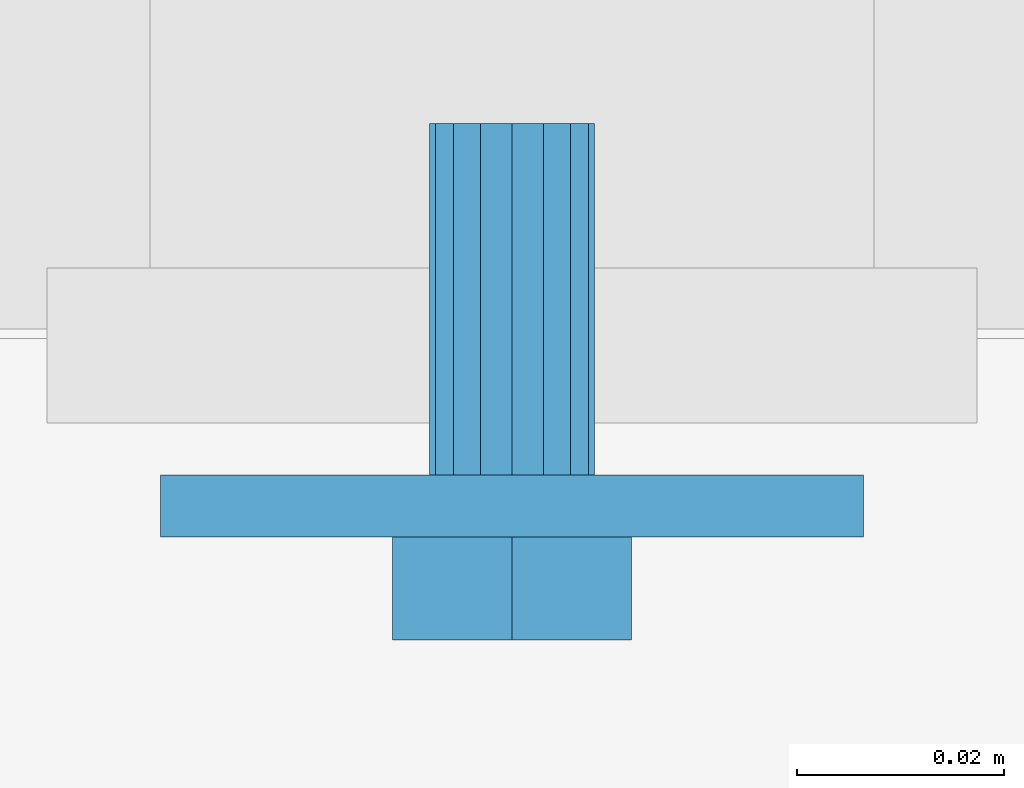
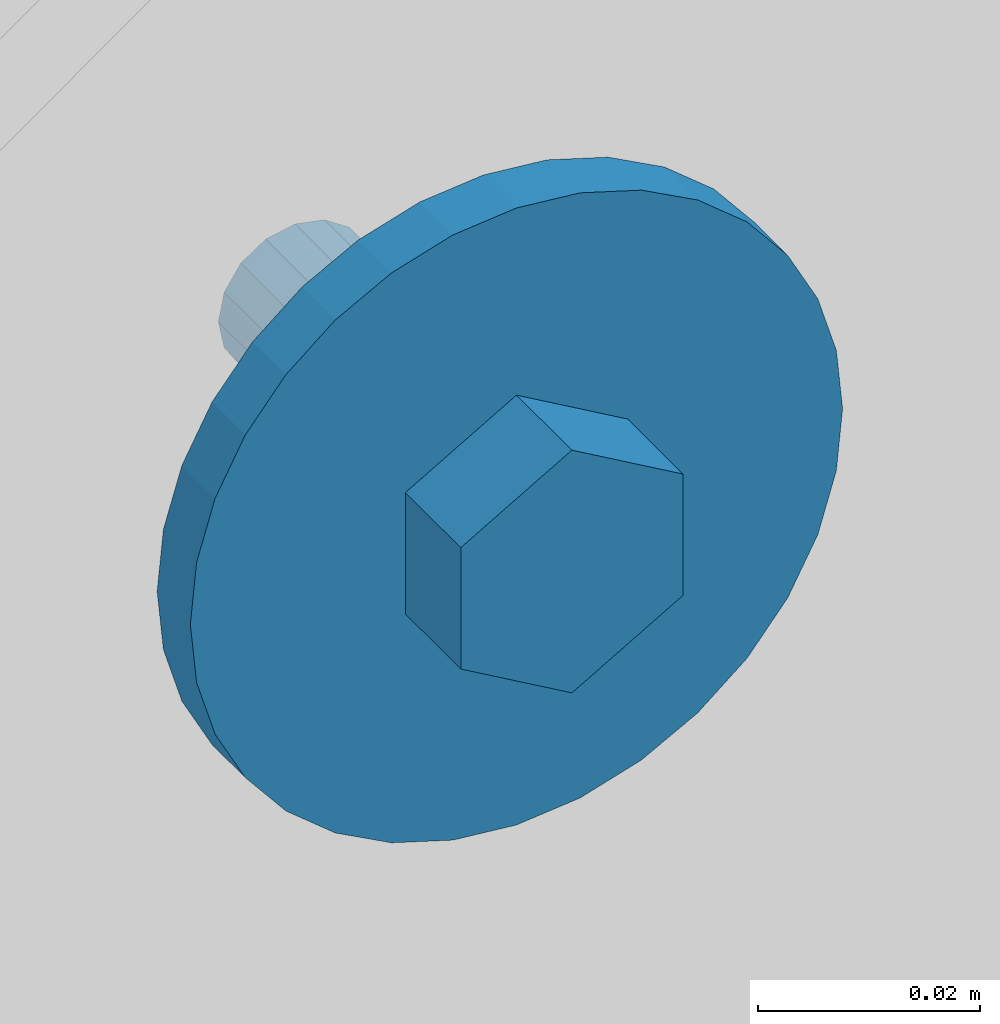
# One storey, part 29 of 116: 1 mechanical fastener.
"""IFC2X3 building model written with IfcOpenShell, lengths in millimetres."""

from ifc_helpers import new_model, entity, si_unit, converted_unit, origin_with_axes, place, context, project, spatial, faceted_brep, element, save


model = new_model("IFC2X3")

# Units and contexts
model_context = context("Model", 3, precision=1e-09, world=origin_with_axes())
ifc_project = project(units=[si_unit("LENGTHUNIT", "METRE", prefix="MILLI"), si_unit("AREAUNIT", "SQUARE_METRE"), si_unit("VOLUMEUNIT", "CUBIC_METRE"), converted_unit("PLANEANGLEUNIT", "DEGREE", entity("IfcPlaneAngleMeasure", 0.01745329), si_unit("PLANEANGLEUNIT", "RADIAN"), dimensions=[0, 0, 0, 0, 0, 0, 0])], contexts=[model_context])

# Site, building, storey
site_placement = place(None, origin_with_axes())
site = spatial("IfcSite", under=ifc_project, at=site_placement, Name="Site", CompositionType="ELEMENT")
building_placement = place(site_placement, origin_with_axes())
building = spatial("IfcBuilding", under=site, at=building_placement, Name="Struktur 1", CompositionType="ELEMENT")
storey_placement = place(building_placement, origin_with_axes())
storey = spatial("IfcBuildingStorey", under=building, at=storey_placement, Name="Default Storey", CompositionType="ELEMENT", Elevation=0.0)

# Mechanical fastener
mechanical_fastener_placement = place(None, origin_with_axes())
element("IfcMechanicalFastener", 1, at=mechanical_fastener_placement, inside=storey, ObjectType="-", NominalDiameter=16.0, NominalLength=40.0, context=model_context, shape_type="Brep", body=[
    faceted_brep([(55556.049134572, 12017.358883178, -115.0), (55556.049134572, 12011.358883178, -115.0), (55555.395834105, 12011.358883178, -121.633070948), (55555.395834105, 12017.358883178, -121.633070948), (55553.461038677, 12011.358883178, -128.0112367), (55553.461038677, 12017.358883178, -128.0112367), (55550.31910139, 12011.358883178, -133.889387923), (55550.31910139, 12017.358883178, -133.889387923), (55546.090765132, 12011.358883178, -139.04163056), (55546.090765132, 12017.358883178, -139.04163056), (55540.938522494, 12011.358883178, -143.269966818), (55540.938522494, 12017.358883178, -143.269966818), (55535.060371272, 12011.358883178, -146.411904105), (55535.060371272, 12017.358883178, -146.411904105), (55528.68220552, 12011.358883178, -148.346699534), (55528.68220552, 12017.358883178, -148.346699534), (55522.049134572, 12011.358883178, -149.0), (55522.049134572, 12017.358883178, -149.0), (55515.416063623, 12011.358883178, -148.346699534), (55515.416063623, 12017.358883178, -148.346699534), (55509.037897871, 12011.358883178, -146.411904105), (55509.037897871, 12017.358883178, -146.411904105), (55503.159746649, 12011.358883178, -143.269966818), (55503.159746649, 12017.358883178, -143.269966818), (55498.007504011, 12011.358883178, -139.04163056), (55498.007504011, 12017.358883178, -139.04163056), (55493.779167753, 12011.358883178, -133.889387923), (55493.779167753, 12017.358883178, -133.889387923), (55490.637230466, 12011.358883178, -128.0112367), (55490.637230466, 12017.358883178, -128.0112367), (55488.702435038, 12011.358883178, -121.633070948), (55488.702435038, 12017.358883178, -121.633070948), (55488.049134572, 12011.358883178, -115.0), (55488.049134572, 12017.358883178, -115.0), (55488.702435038, 12011.358883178, -108.366929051), (55488.702435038, 12017.358883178, -108.366929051), (55490.637230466, 12011.358883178, -101.9887633), (55490.637230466, 12017.358883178, -101.9887633), (55493.779167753, 12011.358883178, -96.110612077), (55493.779167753, 12017.358883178, -96.110612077), (55498.007504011, 12011.358883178, -90.95836944), (55498.007504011, 12017.358883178, -90.95836944), (55503.159746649, 12011.358883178, -86.730033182), (55503.159746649, 12017.358883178, -86.730033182), (55509.037897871, 12011.358883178, -83.588095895), (55509.037897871, 12017.358883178, -83.588095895), (55515.416063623, 12011.358883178, -81.653300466), (55515.416063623, 12017.358883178, -81.653300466), (55522.049134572, 12011.358883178, -81.0), (55522.049134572, 12017.358883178, -81.0), (55528.68220552, 12011.358883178, -81.653300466), (55528.68220552, 12017.358883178, -81.653300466), (55535.060371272, 12011.358883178, -83.588095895), (55535.060371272, 12017.358883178, -83.588095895), (55540.938522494, 12011.358883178, -86.730033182), (55540.938522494, 12017.358883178, -86.730033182), (55546.090765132, 12011.358883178, -90.95836944), (55546.090765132, 12017.358883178, -90.95836944), (55550.31910139, 12011.358883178, -96.110612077), (55550.31910139, 12017.358883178, -96.110612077), (55553.461038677, 12011.358883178, -101.9887633), (55553.461038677, 12017.358883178, -101.9887633), (55555.395834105, 12011.358883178, -108.366929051), (55555.395834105, 12017.358883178, -108.366929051)], [[[0, 1, 2, 3]], [[3, 2, 4, 5]], [[5, 4, 6, 7]], [[7, 6, 8, 9]], [[9, 8, 10, 11]], [[11, 10, 12, 13]], [[13, 12, 14, 15]], [[15, 14, 16, 17]], [[17, 16, 18, 19]], [[19, 18, 20, 21]], [[21, 20, 22, 23]], [[23, 22, 24, 25]], [[25, 24, 26, 27]], [[27, 26, 28, 29]], [[29, 28, 30, 31]], [[31, 30, 32, 33]], [[33, 32, 34, 35]], [[35, 34, 36, 37]], [[37, 36, 38, 39]], [[39, 38, 40, 41]], [[41, 40, 42, 43]], [[43, 42, 44, 45]], [[45, 44, 46, 47]], [[47, 46, 48, 49]], [[49, 48, 50, 51]], [[51, 50, 52, 53]], [[53, 52, 54, 55]], [[55, 54, 56, 57]], [[57, 56, 58, 59]], [[59, 58, 60, 61]], [[61, 60, 62, 63]], [[63, 62, 1, 0]], [[2, 1, 62, 60, 58, 56, 54, 52, 50, 48, 46, 44, 42, 40, 38, 36, 34, 32, 30, 28, 26, 24, 22, 20, 18, 16, 14, 12, 10, 8, 6, 4]], [[63, 0, 3, 5, 7, 9, 11, 13, 15, 17, 19, 21, 23, 25, 27, 29, 31, 33, 35, 37, 39, 41, 43, 45, 47, 49, 51, 53, 55, 57, 59, 61]]]),
    faceted_brep([(55510.466044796, 12001.358883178, -121.6875), (55510.466044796, 12011.358883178, -121.6875), (55522.049134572, 12011.358883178, -128.375), (55522.049134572, 12001.358883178, -128.375), (55533.632224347, 12011.358883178, -121.6875), (55533.632224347, 12001.358883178, -121.6875), (55533.632224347, 12011.358883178, -108.3125), (55533.632224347, 12001.358883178, -108.3125), (55522.049134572, 12011.358883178, -101.625), (55522.049134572, 12001.358883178, -101.625), (55510.466044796, 12011.358883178, -108.3125), (55510.466044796, 12001.358883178, -108.3125)], [[[0, 1, 2, 3]], [[3, 2, 4, 5]], [[5, 4, 6, 7]], [[7, 6, 8, 9]], [[9, 8, 10, 11]], [[11, 10, 1, 0]], [[3, 5, 7, 9, 11, 0]], [[2, 1, 10, 8, 6, 4]]]),
    faceted_brep([(55530.049134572, 12037.357883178, -115.0), (55530.049134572, 12017.358883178, -115.0), (55529.440170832, 12017.358883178, -118.061467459), (55529.440170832, 12037.357883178, -118.061467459), (55527.705988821, 12017.358883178, -120.656854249), (55527.705988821, 12037.357883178, -120.656854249), (55525.110602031, 12017.358883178, -122.39103626), (55525.110602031, 12037.357883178, -122.39103626), (55522.049134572, 12017.358883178, -123.0), (55522.049134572, 12037.357883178, -123.0), (55518.987667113, 12017.358883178, -122.39103626), (55518.987667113, 12037.357883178, -122.39103626), (55516.392280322, 12017.358883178, -120.656854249), (55516.392280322, 12037.357883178, -120.656854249), (55514.658098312, 12017.358883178, -118.061467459), (55514.658098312, 12037.357883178, -118.061467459), (55514.049134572, 12017.358883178, -115.0), (55514.049134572, 12037.357883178, -115.0), (55514.658098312, 12017.358883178, -111.938532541), (55514.658098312, 12037.357883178, -111.938532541), (55516.392280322, 12017.358883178, -109.34314575), (55516.392280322, 12037.357883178, -109.34314575), (55518.987667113, 12017.358883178, -107.60896374), (55518.987667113, 12037.357883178, -107.60896374), (55522.049134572, 12017.358883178, -107.0), (55522.049134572, 12037.357883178, -107.0), (55525.110602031, 12017.358883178, -107.60896374), (55525.110602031, 12037.357883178, -107.60896374), (55527.705988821, 12017.358883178, -109.34314575), (55527.705988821, 12037.357883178, -109.34314575), (55529.440170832, 12017.358883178, -111.938532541), (55529.440170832, 12037.357883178, -111.938532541)], [[[0, 1, 2, 3]], [[3, 2, 4, 5]], [[5, 4, 6, 7]], [[7, 6, 8, 9]], [[9, 8, 10, 11]], [[11, 10, 12, 13]], [[13, 12, 14, 15]], [[15, 14, 16, 17]], [[17, 16, 18, 19]], [[19, 18, 20, 21]], [[21, 20, 22, 23]], [[23, 22, 24, 25]], [[25, 24, 26, 27]], [[27, 26, 28, 29]], [[29, 28, 30, 31]], [[31, 30, 1, 0]], [[2, 1, 30, 28, 26, 24, 22, 20, 18, 16, 14, 12, 10, 8, 6, 4]], [[31, 0, 3, 5, 7, 9, 11, 13, 15, 17, 19, 21, 23, 25, 27, 29]]]),
    faceted_brep([(55530.049134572, 12051.358883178, -115.0), (55530.049134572, 12037.357883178, -115.0), (55529.440170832, 12037.357883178, -118.061467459), (55529.440170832, 12051.358883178, -118.061467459), (55527.705988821, 12037.357883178, -120.656854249), (55527.705988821, 12051.358883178, -120.656854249), (55525.110602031, 12037.357883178, -122.39103626), (55525.110602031, 12051.358883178, -122.39103626), (55522.049134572, 12037.357883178, -123.0), (55522.049134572, 12051.358883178, -123.0), (55518.987667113, 12037.357883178, -122.39103626), (55518.987667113, 12051.358883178, -122.39103626), (55516.392280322, 12037.357883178, -120.656854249), (55516.392280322, 12051.358883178, -120.656854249), (55514.658098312, 12037.357883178, -118.061467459), (55514.658098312, 12051.358883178, -118.061467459), (55514.049134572, 12037.357883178, -115.0), (55514.049134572, 12051.358883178, -115.0), (55514.658098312, 12037.357883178, -111.938532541), (55514.658098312, 12051.358883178, -111.938532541), (55516.392280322, 12037.357883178, -109.34314575), (55516.392280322, 12051.358883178, -109.34314575), (55518.987667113, 12037.357883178, -107.60896374), (55518.987667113, 12051.358883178, -107.60896374), (55522.049134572, 12037.357883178, -107.0), (55522.049134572, 12051.358883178, -107.0), (55525.110602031, 12037.357883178, -107.60896374), (55525.110602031, 12051.358883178, -107.60896374), (55527.705988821, 12037.357883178, -109.34314575), (55527.705988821, 12051.358883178, -109.34314575), (55529.440170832, 12037.357883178, -111.938532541), (55529.440170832, 12051.358883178, -111.938532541)], [[[0, 1, 2, 3]], [[3, 2, 4, 5]], [[5, 4, 6, 7]], [[7, 6, 8, 9]], [[9, 8, 10, 11]], [[11, 10, 12, 13]], [[13, 12, 14, 15]], [[15, 14, 16, 17]], [[17, 16, 18, 19]], [[19, 18, 20, 21]], [[21, 20, 22, 23]], [[23, 22, 24, 25]], [[25, 24, 26, 27]], [[27, 26, 28, 29]], [[29, 28, 30, 31]], [[31, 30, 1, 0]], [[2, 1, 30, 28, 26, 24, 22, 20, 18, 16, 14, 12, 10, 8, 6, 4]], [[31, 0, 3, 5, 7, 9, 11, 13, 15, 17, 19, 21, 23, 25, 27, 29]]]),
])

save(model, "model.ifc")
